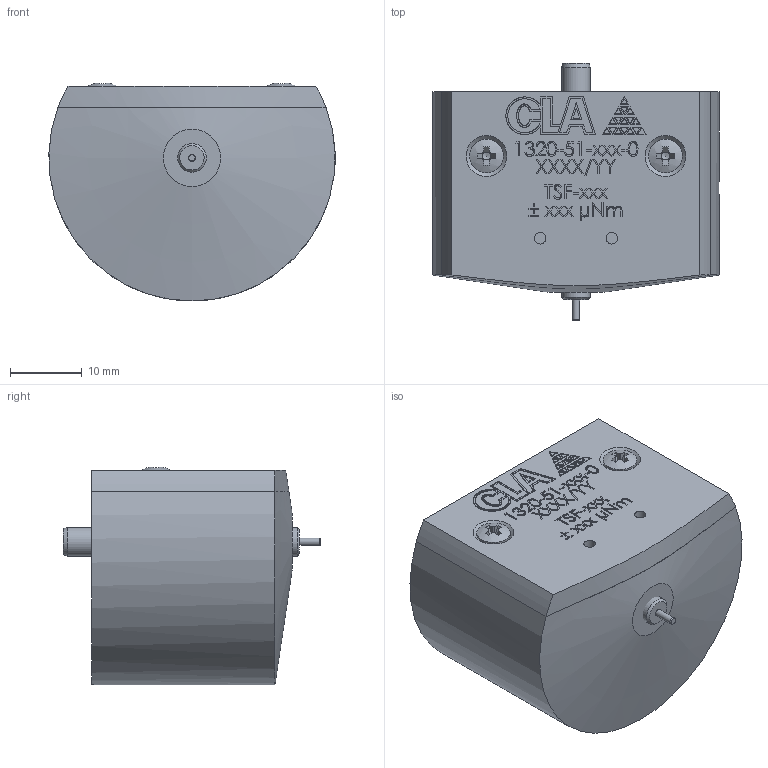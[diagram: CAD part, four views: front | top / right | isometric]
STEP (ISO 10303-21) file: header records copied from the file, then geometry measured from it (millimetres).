
FILE_DESCRIPTION (( 'STEP AP214' ), '1' );
FILE_NAME ('CAD-TSF-0x.STEP', '2017-04-10T09:05:02', ( '' ), ( '' ), 'SwSTEP 2.0', 'SolidWorks 2014', '' );
FILE_SCHEMA (( 'AUTOMOTIVE_DESIGN' ));
Length unit declared in the file: millimetre
Products named in the file (2): CAD-TSF-0x
Bounding box: 39.99 x 36.03 x 30.45 mm (x, y, z)
Volume: 26907 mm3; surface area: 8296.6 mm2
Topology: 8 solids, 8 shells, 874 faces, 2290 edges, 1506 vertices
Faces by surface type: plane 563, cylinder 192, bspline 74, cone 41, sphere 2, torus 2
Full cylindrical faces by diameter (mm): 0.5 x2, 1 x2, 1.6 x3, 2 x1, 2.05 x2, 2.5 x6, 2.7 x2, 2.8 x1, 3.17 x2, 4 x2, 4.7 x2
Entity records: 40301 total; most frequent: CARTESIAN_POINT 9624, ORIENTED_EDGE 4454, DIRECTION 4102, EDGE_CURVE 2227, LINE 1582, VECTOR 1582, VERTEX_POINT 1492, AXIS2_PLACEMENT_3D 1260
